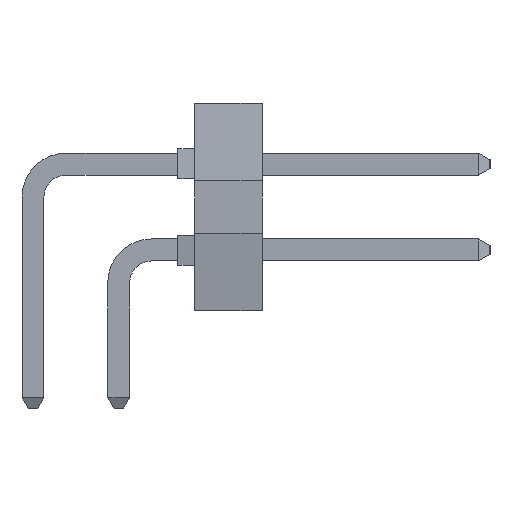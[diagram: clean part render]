
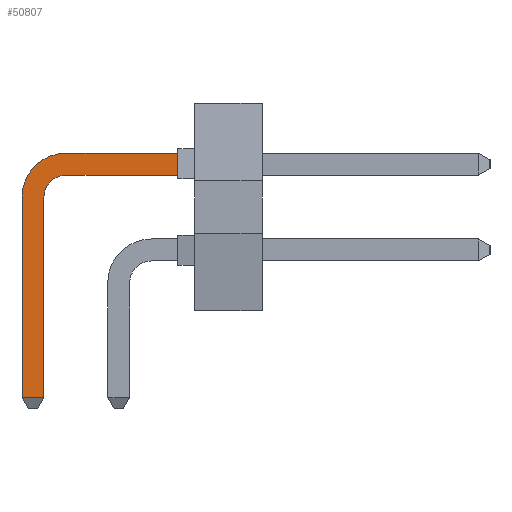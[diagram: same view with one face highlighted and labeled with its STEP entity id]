
A CAD part, left-side view. The second image highlights one B-rep face of the part: STEP entity #50807.
In plain terms, the highlighted planar face has unit normal (-1, 0, 0).
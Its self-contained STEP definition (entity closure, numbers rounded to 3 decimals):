
#5205=DIRECTION('',(0.,0.,1.));
#5206=VECTOR('',#5205,0.65);
#5207=CARTESIAN_POINT('',(-30.805,1.,0.945));
#5208=LINE('',#5207,#5206);
#17441=DIRECTION('',(0.,-1.,0.));
#17442=VECTOR('',#17441,0.65);
#17443=CARTESIAN_POINT('',(-30.805,6.115,-5.645));
#17444=LINE('',#17443,#17442);
#17445=DIRECTION('',(0.,0.,1.));
#17446=VECTOR('',#17445,5.94);
#17447=CARTESIAN_POINT('',(-30.805,6.115,-5.645));
#17448=LINE('',#17447,#17446);
#17449=CARTESIAN_POINT('',(-30.805,4.815,0.295));
#17450=DIRECTION('',(1.,0.,0.));
#17451=DIRECTION('',(0.,1.,0.));
#17452=AXIS2_PLACEMENT_3D('',#17449,#17450,#17451);
#17454=DIRECTION('',(0.,-1.,0.));
#17455=VECTOR('',#17454,3.815);
#17456=CARTESIAN_POINT('',(-30.805,4.815,1.595));
#17457=LINE('',#17456,#17455);
#17458=DIRECTION('',(0.,1.,0.));
#17459=VECTOR('',#17458,3.815);
#17460=CARTESIAN_POINT('',(-30.805,1.,0.945));
#17461=LINE('',#17460,#17459);
#17462=CARTESIAN_POINT('',(-30.805,4.815,0.295));
#17463=DIRECTION('',(-1.,0.,0.));
#17464=DIRECTION('',(0.,0.,1.));
#17465=AXIS2_PLACEMENT_3D('',#17462,#17463,#17464);
#17467=DIRECTION('',(0.,0.,-1.));
#17468=VECTOR('',#17467,5.94);
#17469=CARTESIAN_POINT('',(-30.805,5.465,0.295));
#17470=LINE('',#17469,#17468);
#20337=CARTESIAN_POINT('',(-30.805,4.815,0.945));
#20338=CARTESIAN_POINT('',(-30.805,5.465,0.295));
#20339=VERTEX_POINT('',#20337);
#20340=VERTEX_POINT('',#20338);
#20341=CARTESIAN_POINT('',(-30.805,6.115,0.295));
#20342=CARTESIAN_POINT('',(-30.805,4.815,1.595));
#20343=VERTEX_POINT('',#20341);
#20344=VERTEX_POINT('',#20342);
#20381=CARTESIAN_POINT('',(-30.805,1.,0.945));
#20382=CARTESIAN_POINT('',(-30.805,1.,1.595));
#20383=VERTEX_POINT('',#20381);
#20384=VERTEX_POINT('',#20382);
#23345=CARTESIAN_POINT('',(-30.805,5.465,-5.645));
#23346=VERTEX_POINT('',#23345);
#23349=CARTESIAN_POINT('',(-30.805,6.115,-5.645));
#23350=VERTEX_POINT('',#23349);
#50785=CARTESIAN_POINT('',(-30.805,0.,0.));
#50786=DIRECTION('',(1.,0.,0.));
#50787=DIRECTION('',(0.,0.,-1.));
#50788=AXIS2_PLACEMENT_3D('',#50785,#50786,#50787);
#50789=PLANE('',#50788);
#50791=ORIENTED_EDGE('',*,*,#50790,.F.);
#50793=ORIENTED_EDGE('',*,*,#50792,.T.);
#50795=ORIENTED_EDGE('',*,*,#50794,.T.);
#50797=ORIENTED_EDGE('',*,*,#50796,.T.);
#50798=ORIENTED_EDGE('',*,*,#27020,.F.);
#50800=ORIENTED_EDGE('',*,*,#50799,.T.);
#50802=ORIENTED_EDGE('',*,*,#50801,.T.);
#50804=ORIENTED_EDGE('',*,*,#50803,.T.);
#50805=EDGE_LOOP('',(#50791,#50793,#50795,#50797,#50798,#50800,#50802,#50804));
#50806=FACE_OUTER_BOUND('',#50805,.F.);
#50807=ADVANCED_FACE('',(#50806),#50789,.F.);
#17453=CIRCLE('',#17452,1.3);
#17466=CIRCLE('',#17465,0.65);
#27020=EDGE_CURVE('',#20383,#20384,#5208,.T.);
#50790=EDGE_CURVE('',#23350,#23346,#17444,.T.);
#50792=EDGE_CURVE('',#23350,#20343,#17448,.T.);
#50794=EDGE_CURVE('',#20343,#20344,#17453,.T.);
#50796=EDGE_CURVE('',#20344,#20384,#17457,.T.);
#50799=EDGE_CURVE('',#20383,#20339,#17461,.T.);
#50801=EDGE_CURVE('',#20339,#20340,#17466,.T.);
#50803=EDGE_CURVE('',#20340,#23346,#17470,.T.);
